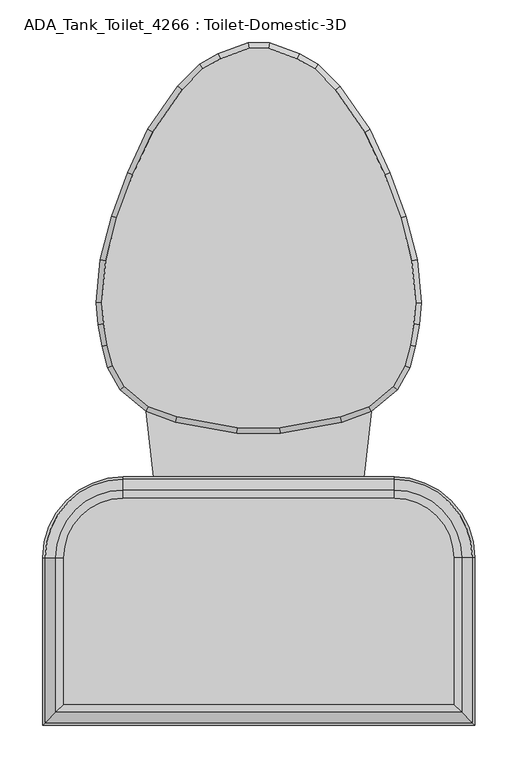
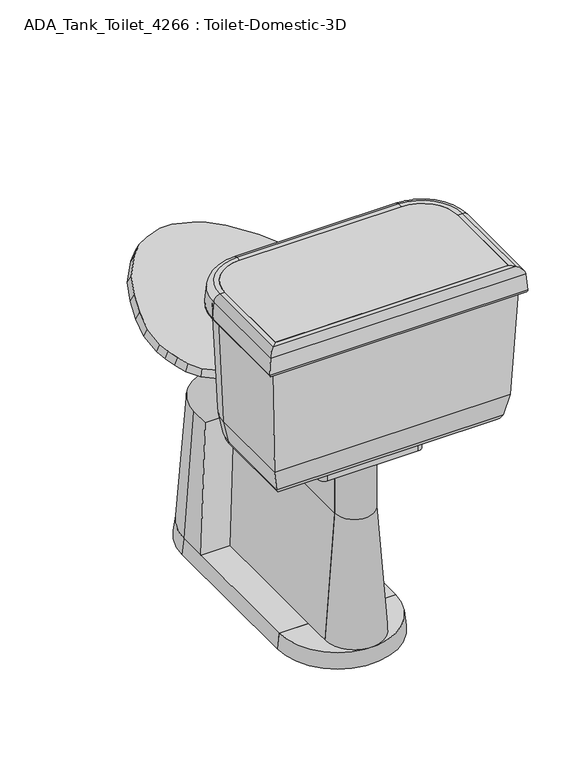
"""IFC4 building model written with IfcOpenShell, lengths in millimetres: flow terminal geometry, ADA_Tank_Toilet_4266 : Toilet-Domestic-3D."""

from ifc_helpers import new_model, si_unit, point, frame, frame_2d, origin, place, context, project, spatial, polyline, circle_curve, ellipse_curve, trimmed, segment, composite_curve, outline, extrude, faceted_brep, source, transform, mapped, element, save
from ifc_brep_helpers import plane_surface, cylinder_surface, revolved_surface, advanced_brep


def ada_tank_toilet_4266_toilet_domestic_3d_e97a8d24(model_context):
    return source(origin(), model_context, "Body", "SolidModel", [
        advanced_brep(
        [(-117.7636364, -285.75, 0.0), (-114.3, -285.75, 31.75), (-38.1, -285.75, 31.75), (-38.1, -285.75, 0.0), (117.7636364, -285.75, 0.0), (38.1, -285.75, 0.0), (38.1, -285.75, 31.75), (114.3, -285.75, 31.75)],
        [
            (0, 1),
            (1, 2),
            (2, 3),
            (3, 0),
            (4, 5),
            (5, 6),
            (6, 7),
            (7, 4),
            (4, 0, circle_curve(frame((0.0, -285.75, 0.0), z_axis=(0.0, 0.0, -1.0), x_axis=(-1.0, 0.0, 0.0)), 117.7636364)),
            (3, 5, circle_curve(frame((0.0, -285.75, 0.0), z_axis=(0.0, 0.0, 1.0), x_axis=(-1.0, 0.0, 0.0)), 38.1)),
            (2, 6, circle_curve(frame((0.0, -285.75, 31.75), z_axis=(0.0, 0.0, 1.0), x_axis=(-1.0, 0.0, 0.0)), 38.1)),
            (1, 7, circle_curve(frame((0.0, -285.75, 31.75), z_axis=(0.0, 0.0, 1.0), x_axis=(-1.0, 0.0, 0.0)), 114.3)),
        ],
        [
            plane_surface(frame((0.0, -285.75, -304.8), z_axis=(0.0, 1.0, 0.0), x_axis=(-1.0, 0.0, 0.0))),
            plane_surface(frame((0.0, -285.75, -304.8), z_axis=(0.0, 1.0, 0.0), x_axis=(1.0, 0.0, 0.0))),
            plane_surface(frame((0.0, -285.75, 0.0), z_axis=(0.0, 0.0, -1.0), x_axis=(-1.0, 0.0, 0.0))),
            revolved_surface(polyline([(-38.1, -285.75, 0.0), (-38.1, -285.75, 31.75)]), (0.0, -285.75, -304.8), (0.0, 0.0, -1.0)),
            plane_surface(frame((0.0, -285.75, 31.75), z_axis=(0.0, 0.0, 1.0), x_axis=(-1.0, 0.0, 0.0))),
            revolved_surface(polyline([(-114.3, -285.75, 31.75), (-117.7636364, -285.75, 0.0)]), (0.0, -285.75, -304.8), (0.0, 0.0, -1.0)),
        ],
        [
            (0, [[1, 2, 3, 4]]),
            (1, [[5, 6, 7, 8]]),
            (2, [[-5, 9, -4, 10]]),
            (3, [[-6, -10, -3, 11]]),
            (4, [[-7, -11, -2, 12]]),
            (5, [[-8, -12, -1, -9]]),
        ],
    ),
        advanced_brep(
        [(-38.1, -342.9, 288.9252637), (-38.1, -342.9, 31.75), (-57.15, -342.9, 31.75), (38.1, -342.9, 288.9252637), (57.15, -342.9, 31.75), (38.1, -342.9, 31.75)],
        [
            (0, 1),
            (1, 2),
            (2, 0),
            (3, 4),
            (4, 5),
            (5, 3),
            (3, 0, circle_curve(frame((0.0, -342.9, 288.9252637), z_axis=(0.0, 0.0, -1.0), x_axis=(-1.0, 0.0, 0.0)), 38.1)),
            (2, 4, circle_curve(frame((0.0, -342.9, 31.75), z_axis=(0.0, 0.0, 1.0), x_axis=(-1.0, 0.0, 0.0)), 57.15)),
            (1, 5, circle_curve(frame((0.0, -342.9, 31.75), z_axis=(0.0, 0.0, 1.0), x_axis=(-1.0, 0.0, 0.0)), 38.1)),
        ],
        [
            plane_surface(frame((0.0, -342.9, 31.75), z_axis=(0.0, 1.0, 0.0), x_axis=(-1.0, 0.0, 0.0))),
            plane_surface(frame((0.0, -342.9, 31.75), z_axis=(0.0, 1.0, 0.0), x_axis=(1.0, 0.0, 0.0))),
            revolved_surface(polyline([(-38.1, -342.9, 288.9252637), (-57.15, -342.9, 31.75)]), (0.0, -342.9, 31.75), (0.0, 0.0, -1.0)),
            plane_surface(frame((0.0, -342.9, 31.75), z_axis=(0.0, 0.0, -1.0), x_axis=(-1.0, 0.0, 0.0))),
            revolved_surface(polyline([(-38.1, -342.9, 31.75), (-38.1, -342.9, 288.9252637)]), (0.0, -342.9, 31.75), (0.0, 0.0, -1.0)),
        ],
        [
            (0, [[1, 2, 3]]),
            (1, [[4, 5, 6]]),
            (2, [[-4, 7, -3, 8]]),
            (3, [[-5, -8, -2, 9]]),
            (4, [[-6, -9, -1, -7]]),
        ],
    ),
        faceted_brep([(-157.6293435, -97.472128, 482.6), (-129.0942628, -121.4159037, 482.6), (-95.7755003, -133.5429415, 482.6), (-24.844447, -146.05, 482.6), (24.844447, -146.05, 482.6), (95.7755003, -133.5429415, 482.6), (129.0942628, -121.4159037, 482.6), (157.6293435, -97.472128, 482.6), (171.060664, -73.773864, 482.6), (177.5851102, -49.4242991, 482.6), (181.9845715, -24.4737144, 482.6), (184.125744, 0.0, 482.6), (179.7950716, 49.4998127, 482.6), (166.347, 99.688699, 482.6), (148.0469602, 149.9676451, 482.6), (124.7045808, 200.0255393, 482.6), (90.0971582, 249.9125941, 482.6), (65.691017, 274.3187354, 482.6), (44.8990862, 286.3229622, 482.6), (11.5803237, 298.45, 482.6), (-11.5803237, 298.45, 482.6), (-44.8990862, 286.3229622, 482.6), (-65.691017, 274.3187354, 482.6), (-90.0971582, 249.9125941, 482.6), (-124.7045808, 200.0255393, 482.6), (-148.0469602, 149.9676451, 482.6), (-166.347, 99.688699, 482.6), (-179.7950716, 49.4998127, 482.6), (-184.125744, 0.0, 482.6), (-181.9845715, -24.4737144, 482.6), (-177.5851102, -49.4242991, 482.6), (-171.060664, -73.773864, 482.6), (-162.5887836, -101.6, 469.7681453), (-176.9845865, -76.2, 469.7681453), (-183.790496, -50.8, 469.7681453), (-188.2862441, -25.3033453, 469.7681453), (-190.5, 0.0, 469.7681453), (-186.0724883, 50.6066907, 469.7681453), (-172.4088722, 101.6, 469.7681453), (-153.9191843, 152.4, 469.7681453), (-130.2307553, 203.2, 469.7681453), (-94.9900085, 254.0, 469.7681453), (-69.5900085, 279.4, 469.7681453), (-47.5929632, 292.1, 469.7681453), (-12.7, 304.8, 469.7681453), (12.7, 304.8, 469.7681453), (47.5929632, 292.1, 469.7681453), (69.5900085, 279.4, 469.7681453), (94.9900085, 254.0, 469.7681453), (130.2307553, 203.2, 469.7681453), (153.9191843, 152.4, 469.7681453), (172.4088722, 101.6, 469.7681453), (186.0724883, 50.6066907, 469.7681453), (190.5, 0.0, 469.7681453), (188.2862441, -25.3033453, 469.7681453), (183.790496, -50.8, 469.7681453), (176.9845865, -76.2, 469.7681453), (162.5887836, -101.6, 469.7681453), (132.3182423, -127.0, 469.7681453), (97.4252791, -139.7, 469.7681453), (25.4, -152.4, 469.7681453), (-25.4, -152.4, 469.7681453), (-97.4252791, -139.7, 469.7681453), (-132.3182423, -127.0, 469.7681453)], [[[0, 1, 2, 3, 4, 5, 6, 7, 8, 9, 10, 11, 12, 13, 14, 15, 16, 17, 18, 19, 20, 21, 22, 23, 24, 25, 26, 27, 28, 29, 30, 31]], [[32, 33, 34, 35, 36, 37, 38, 39, 40, 41, 42, 43, 44, 45, 46, 47, 48, 49, 50, 51, 52, 53, 54, 55, 56, 57, 58, 59, 60, 61, 62, 63]], [[32, 0, 31, 33]], [[33, 31, 30, 34]], [[34, 30, 29, 35]], [[35, 29, 28, 36]], [[36, 28, 27, 37]], [[37, 27, 26, 38]], [[38, 26, 25, 39]], [[39, 25, 24, 40]], [[40, 24, 23, 41]], [[41, 23, 22, 42]], [[42, 22, 21, 43]], [[43, 21, 20, 44]], [[44, 20, 19, 45]], [[45, 19, 18, 46]], [[46, 18, 17, 47]], [[47, 17, 16, 48]], [[48, 16, 15, 49]], [[49, 15, 14, 50]], [[50, 14, 13, 51]], [[51, 13, 12, 52]], [[52, 12, 11, 53]], [[53, 11, 10, 54]], [[54, 10, 9, 55]], [[55, 9, 8, 56]], [[56, 8, 7, 57]], [[57, 7, 6, 58]], [[58, 6, 5, 59]], [[59, 5, 4, 60]], [[60, 4, 3, 61]], [[61, 3, 2, 62]], [[62, 2, 1, 63]], [[63, 1, 0, 32]]]),
        extrude(outline(composite_curve([segment(polyline([(228.5868869, -469.8868869), (-228.5868869, -469.8868869), (-228.5868869, -298.45)]), True, "CONTINUOUS"), segment(trimmed(circle_curve(frame_2d((-158.75, -298.45)), 69.8368869), [point((-228.5868869, -298.45))], [point((-158.75, -228.6131131))], False, "CARTESIAN"), True, "CONTINUOUS"), segment(polyline([(-158.75, -228.6131131), (158.75, -228.6131131)]), True, "CONTINUOUS"), segment(trimmed(circle_curve(frame_2d((158.75, -298.45)), 69.8368869), [point((158.75, -228.6131131))], [point((228.5868869, -298.45))], False, "CARTESIAN"), True, "CONTINUOUS"), segment(polyline([(228.5868869, -298.45), (228.5868869, -469.8868869)]), True, "CONTINUOUS")], self_intersect=False)), frame((0.0, 0.0, 736.6), z_axis=(0.0, 0.0, 1.0), x_axis=(1.0, 0.0, 0.0)), (0.0, 0.0, 1.0), 50.8),
        extrude(outline(composite_curve([segment(polyline([(-38.1, -342.9), (38.1, -342.9)]), True, "CONTINUOUS"), segment(trimmed(circle_curve(frame_2d((0.0, -342.9)), 38.1), [point((38.1, -342.9))], [point((-38.1, -342.9))], False, "CARTESIAN"), True, "CONTINUOUS")], self_intersect=False)), frame((0.0, 0.0, 288.925), z_axis=(0.0, 0.0, 1.0), x_axis=(1.0, 0.0, 0.0)), (0.0, 0.0, 1.0), 130.175),
        advanced_brep(
        [(177.8, -419.1, 469.7681453), (177.8, -298.45, 469.7681453), (177.8, -298.45, 457.2), (177.8, -419.1, 457.2), (192.8020829, -434.1020829, 469.7681453), (192.8020829, -298.45, 469.7681453), (211.4650931, -452.7650931, 484.9978636), (211.4650931, -298.45, 484.9978636), (218.7732506, -460.0732506, 520.7), (218.7732506, -298.45, 520.7), (228.5868869, -469.8868869, 736.6), (228.5868869, -298.45, 736.6), (228.5868869, -469.8868869, 787.4), (228.5868869, -298.45, 787.4), (237.91817, -479.21817, 787.4), (237.91817, -298.45, 787.4), (250.5698426, -491.8698426, 775.8068779), (250.5698426, -298.45, 775.8068779), (253.3960274, -494.6960274, 743.503439), (253.3960274, -298.45, 743.503439), (247.070191, -488.370191, 736.6), (247.070191, -298.45, 736.6), (241.3, -482.6, 736.6), (241.3, -298.45, 736.6), (231.4863636, -472.7863636, 520.7), (231.4863636, -298.45, 520.7), (222.3416824, -463.6416824, 476.0259963), (222.3416824, -298.45, 476.0259963), (197.8071664, -439.1071664, 457.2), (197.8071664, -298.45, 457.2), (158.75, -279.4, 469.7681453), (158.75, -279.4, 457.2), (158.75, -264.3979171, 469.7681453), (158.75, -245.7349069, 484.9978636), (158.75, -238.4267494, 520.7), (158.75, -228.6131131, 736.6), (158.75, -228.6131131, 787.4), (158.75, -219.28183, 787.4), (158.75, -206.6301574, 775.8068779), (158.75, -203.8039726, 743.503439), (158.75, -210.129809, 736.6), (158.75, -215.9, 736.6), (158.75, -225.7136364, 520.7), (158.75, -234.8583176, 476.0259963), (158.75, -259.3928336, 457.2), (-158.75, -279.4, 469.7681453), (-158.75, -279.4, 457.2), (-158.75, -264.3979171, 469.7681453), (-158.75, -245.7349069, 484.9978636), (-158.75, -238.4267494, 520.7), (-158.75, -228.6131131, 736.6), (-158.75, -228.6131131, 787.4), (-158.75, -219.28183, 787.4), (-158.75, -206.6301574, 775.8068779), (-158.75, -203.8039726, 743.503439), (-158.75, -210.129809, 736.6), (-158.75, -215.9, 736.6), (-158.75, -225.7136364, 520.7), (-158.75, -234.8583176, 476.0259963), (-158.75, -259.3928336, 457.2), (-177.8, -298.45, 469.7681453), (-177.8, -298.45, 457.2), (-192.8020829, -298.45, 469.7681453), (-211.4650931, -298.45, 484.9978636), (-218.7732506, -298.45, 520.7), (-228.5868869, -298.45, 736.6), (-228.5868869, -298.45, 787.4), (-237.91817, -298.45, 787.4), (-250.5698426, -298.45, 775.8068779), (-253.3960274, -298.45, 743.503439), (-247.070191, -298.45, 736.6), (-241.3, -298.45, 736.6), (-231.4863636, -298.45, 520.7), (-222.3416824, -298.45, 476.0259963), (-197.8071664, -298.45, 457.2), (-177.8, -419.1, 469.7681453), (-177.8, -419.1, 457.2), (-192.8020829, -434.1020829, 469.7681453), (-211.4650931, -452.7650931, 484.9978636), (-218.7732506, -460.0732506, 520.7), (-228.5868869, -469.8868869, 736.6), (-228.5868869, -469.8868869, 787.4), (-237.91817, -479.21817, 787.4), (-250.5698426, -491.8698426, 775.8068779), (-253.3960274, -494.6960274, 743.503439), (-247.070191, -488.370191, 736.6), (-241.3, -482.6, 736.6), (-231.4863636, -472.7863636, 520.7), (-222.3416824, -463.6416824, 476.0259963), (-197.8071664, -439.1071664, 457.2)],
        [
            (0, 1),
            (1, 2),
            (2, 3),
            (3, 0),
            (4, 5),
            (5, 1),
            (0, 4),
            (6, 7),
            (7, 5, circle_curve(frame((192.8020829, -298.45, 488.8181453), z_axis=(0.0, 1.0, 0.0), x_axis=(1.0, 0.0, 0.0)), 19.05)),
            (4, 6, ellipse_curve(frame((192.8020829, -434.1020829, 488.8181453), z_axis=(-0.7071067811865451, -0.7071067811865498, 0.0), x_axis=(-0.7071067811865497, 0.7071067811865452, 0.0)), 26.9407684, 19.05)),
            (8, 9),
            (9, 7),
            (6, 8),
            (10, 11),
            (11, 9),
            (8, 10),
            (12, 13),
            (13, 11),
            (10, 12),
            (14, 15),
            (15, 13),
            (12, 14),
            (16, 17),
            (17, 15, circle_curve(frame((237.91817, -298.45, 774.7), z_axis=(0.0, -1.0, 0.0), x_axis=(1.0, 0.0, 0.0)), 12.7)),
            (14, 16, ellipse_curve(frame((237.91817, -479.21817, 774.7), z_axis=(0.7071067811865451, 0.7071067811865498, 0.0), x_axis=(0.7071067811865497, -0.7071067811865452, 0.0)), 17.9605122, 12.7)),
            (18, 19),
            (19, 17),
            (16, 18),
            (20, 21),
            (21, 19, circle_curve(frame((247.070191, -298.45, 742.95), z_axis=(0.0, -1.0, 0.0), x_axis=(1.0, 0.0, 0.0)), 6.35)),
            (18, 20, ellipse_curve(frame((247.070191, -488.370191, 742.95), z_axis=(0.7071067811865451, 0.7071067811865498, 0.0), x_axis=(0.7071067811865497, -0.7071067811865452, 0.0)), 8.9802561, 6.35)),
            (22, 23),
            (23, 21),
            (20, 22),
            (24, 25),
            (25, 23),
            (22, 24),
            (26, 27),
            (27, 25),
            (24, 26),
            (28, 29),
            (29, 27, circle_curve(frame((197.8071664, -298.45, 482.6), z_axis=(0.0, -1.0, 0.0), x_axis=(1.0, 0.0, 0.0)), 25.4)),
            (26, 28, ellipse_curve(frame((197.8071664, -439.1071664, 482.6), z_axis=(0.7071067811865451, 0.7071067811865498, 0.0), x_axis=(0.7071067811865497, -0.7071067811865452, 0.0)), 35.9210245, 25.4)),
            (2, 29),
            (28, 3),
            (30, 31),
            (31, 2, circle_curve(frame((158.75, -298.45, 457.2), z_axis=(0.0, 0.0, -1.0), x_axis=(1.0, 0.0, 0.0)), 19.05)),
            (1, 30, circle_curve(frame((158.75, -298.45, 469.7681453), z_axis=(0.0, 0.0, 1.0), x_axis=(1.0, 0.0, 0.0)), 19.05)),
            (32, 30),
            (5, 32, circle_curve(frame((158.75, -298.45, 469.7681453), z_axis=(0.0, 0.0, 1.0), x_axis=(1.0, 0.0, 0.0)), 34.0520829)),
            (33, 32, circle_curve(frame((158.75, -264.3979171, 488.8181453), z_axis=(-1.0, 0.0, 0.0), x_axis=(0.0, 1.0, 0.0)), 19.05)),
            (7, 33, circle_curve(frame((158.75, -298.45, 484.9978636), z_axis=(0.0, 0.0, 1.0), x_axis=(1.0, 0.0, 0.0)), 52.7150931)),
            (34, 33),
            (9, 34, circle_curve(frame((158.75, -298.45, 520.7), z_axis=(0.0, 0.0, 1.0), x_axis=(1.0, 0.0, 0.0)), 60.0232506)),
            (35, 34),
            (11, 35, circle_curve(frame((158.75, -298.45, 736.6), z_axis=(0.0, 0.0, 1.0), x_axis=(1.0, 0.0, 0.0)), 69.8368869)),
            (36, 35),
            (13, 36, circle_curve(frame((158.75, -298.45, 787.4), z_axis=(0.0, 0.0, 1.0), x_axis=(1.0, 0.0, 0.0)), 69.8368869)),
            (37, 36),
            (15, 37, circle_curve(frame((158.75, -298.45, 787.4), z_axis=(0.0, 0.0, 1.0), x_axis=(1.0, 0.0, 0.0)), 79.16817)),
            (38, 37, circle_curve(frame((158.75, -219.28183, 774.7), z_axis=(1.0, 0.0, 0.0), x_axis=(0.0, 1.0, 0.0)), 12.7)),
            (17, 38, circle_curve(frame((158.75, -298.45, 775.8068779), z_axis=(0.0, 0.0, 1.0), x_axis=(1.0, 0.0, 0.0)), 91.8198426)),
            (39, 38),
            (19, 39, circle_curve(frame((158.75, -298.45, 743.503439), z_axis=(0.0, 0.0, 1.0), x_axis=(1.0, 0.0, 0.0)), 94.6460274)),
            (40, 39, circle_curve(frame((158.75, -210.129809, 742.95), z_axis=(1.0, 0.0, 0.0), x_axis=(0.0, 1.0, 0.0)), 6.35)),
            (21, 40, circle_curve(frame((158.75, -298.45, 736.6), z_axis=(0.0, 0.0, 1.0), x_axis=(1.0, 0.0, 0.0)), 88.320191)),
            (41, 40),
            (23, 41, circle_curve(frame((158.75, -298.45, 736.6), z_axis=(0.0, 0.0, 1.0), x_axis=(1.0, 0.0, 0.0)), 82.55)),
            (42, 41),
            (25, 42, circle_curve(frame((158.75, -298.45, 520.7), z_axis=(0.0, 0.0, 1.0), x_axis=(1.0, 0.0, 0.0)), 72.7363636)),
            (43, 42),
            (27, 43, circle_curve(frame((158.75, -298.45, 476.0259963), z_axis=(0.0, 0.0, 1.0), x_axis=(1.0, 0.0, 0.0)), 63.5916824)),
            (44, 43, circle_curve(frame((158.75, -259.3928336, 482.6), z_axis=(1.0, 0.0, 0.0), x_axis=(0.0, 1.0, 0.0)), 25.4)),
            (29, 44, circle_curve(frame((158.75, -298.45, 457.2), z_axis=(0.0, 0.0, 1.0), x_axis=(1.0, 0.0, 0.0)), 39.0571664)),
            (31, 44),
            (30, 45),
            (45, 46),
            (46, 31),
            (32, 47),
            (47, 45),
            (33, 48),
            (48, 47, circle_curve(frame((-158.75, -264.3979171, 488.8181453), z_axis=(-1.0, 0.0, 0.0), x_axis=(0.0, 1.0, 0.0)), 19.05)),
            (34, 49),
            (49, 48),
            (35, 50),
            (50, 49),
            (36, 51),
            (51, 50),
            (37, 52),
            (52, 51),
            (38, 53),
            (53, 52, circle_curve(frame((-158.75, -219.28183, 774.7), z_axis=(1.0, 0.0, 0.0), x_axis=(0.0, 1.0, 0.0)), 12.7)),
            (39, 54),
            (54, 53),
            (40, 55),
            (55, 54, circle_curve(frame((-158.75, -210.129809, 742.95), z_axis=(1.0, 0.0, 0.0), x_axis=(0.0, 1.0, 0.0)), 6.35)),
            (41, 56),
            (56, 55),
            (42, 57),
            (57, 56),
            (43, 58),
            (58, 57),
            (44, 59),
            (59, 58, circle_curve(frame((-158.75, -259.3928336, 482.6), z_axis=(1.0, 0.0, 0.0), x_axis=(0.0, 1.0, 0.0)), 25.4)),
            (46, 59),
            (60, 61),
            (61, 46, circle_curve(frame((-158.75, -298.45, 457.2), z_axis=(0.0, 0.0, -1.0), x_axis=(0.0, 1.0, 0.0)), 19.05)),
            (45, 60, circle_curve(frame((-158.75, -298.45, 469.7681453), z_axis=(0.0, 0.0, 1.0), x_axis=(0.0, 1.0, 0.0)), 19.05)),
            (62, 60),
            (47, 62, circle_curve(frame((-158.75, -298.45, 469.7681453), z_axis=(0.0, 0.0, 1.0), x_axis=(0.0, 1.0, 0.0)), 34.0520829)),
            (63, 62, circle_curve(frame((-192.8020829, -298.45, 488.8181453), z_axis=(0.0, -1.0, 0.0), x_axis=(-1.0, 0.0, 0.0)), 19.05)),
            (48, 63, circle_curve(frame((-158.75, -298.45, 484.9978636), z_axis=(0.0, 0.0, 1.0), x_axis=(0.0, 1.0, 0.0)), 52.7150931)),
            (64, 63),
            (49, 64, circle_curve(frame((-158.75, -298.45, 520.7), z_axis=(0.0, 0.0, 1.0), x_axis=(0.0, 1.0, 0.0)), 60.0232506)),
            (65, 64),
            (50, 65, circle_curve(frame((-158.75, -298.45, 736.6), z_axis=(0.0, 0.0, 1.0), x_axis=(0.0, 1.0, 0.0)), 69.8368869)),
            (66, 65),
            (51, 66, circle_curve(frame((-158.75, -298.45, 787.4), z_axis=(0.0, 0.0, 1.0), x_axis=(0.0, 1.0, 0.0)), 69.8368869)),
            (67, 66),
            (52, 67, circle_curve(frame((-158.75, -298.45, 787.4), z_axis=(0.0, 0.0, 1.0), x_axis=(0.0, 1.0, 0.0)), 79.16817)),
            (68, 67, circle_curve(frame((-237.91817, -298.45, 774.7), z_axis=(0.0, 1.0, 0.0), x_axis=(-1.0, 0.0, 0.0)), 12.7)),
            (53, 68, circle_curve(frame((-158.75, -298.45, 775.8068779), z_axis=(0.0, 0.0, 1.0), x_axis=(0.0, 1.0, 0.0)), 91.8198426)),
            (69, 68),
            (54, 69, circle_curve(frame((-158.75, -298.45, 743.503439), z_axis=(0.0, 0.0, 1.0), x_axis=(0.0, 1.0, 0.0)), 94.6460274)),
            (70, 69, circle_curve(frame((-247.070191, -298.45, 742.95), z_axis=(0.0, 1.0, 0.0), x_axis=(-1.0, 0.0, 0.0)), 6.35)),
            (55, 70, circle_curve(frame((-158.75, -298.45, 736.6), z_axis=(0.0, 0.0, 1.0), x_axis=(0.0, 1.0, 0.0)), 88.320191)),
            (71, 70),
            (56, 71, circle_curve(frame((-158.75, -298.45, 736.6), z_axis=(0.0, 0.0, 1.0), x_axis=(0.0, 1.0, 0.0)), 82.55)),
            (72, 71),
            (57, 72, circle_curve(frame((-158.75, -298.45, 520.7), z_axis=(0.0, 0.0, 1.0), x_axis=(0.0, 1.0, 0.0)), 72.7363636)),
            (73, 72),
            (58, 73, circle_curve(frame((-158.75, -298.45, 476.0259963), z_axis=(0.0, 0.0, 1.0), x_axis=(0.0, 1.0, 0.0)), 63.5916824)),
            (74, 73, circle_curve(frame((-197.8071664, -298.45, 482.6), z_axis=(0.0, 1.0, 0.0), x_axis=(-1.0, 0.0, 0.0)), 25.4)),
            (59, 74, circle_curve(frame((-158.75, -298.45, 457.2), z_axis=(0.0, 0.0, 1.0), x_axis=(0.0, 1.0, 0.0)), 39.0571664)),
            (61, 74),
            (60, 75),
            (75, 76),
            (76, 61),
            (62, 77),
            (77, 75),
            (63, 78),
            (78, 77, ellipse_curve(frame((-192.8020829, -434.1020829, 488.8181453), z_axis=(0.7071067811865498, -0.7071067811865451, 0.0), x_axis=(-0.7071067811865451, -0.70710678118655, 0.0)), 26.9407684, 19.05)),
            (64, 79),
            (79, 78),
            (65, 80),
            (80, 79),
            (66, 81),
            (81, 80),
            (67, 82),
            (82, 81),
            (68, 83),
            (83, 82, ellipse_curve(frame((-237.91817, -479.21817, 774.7), z_axis=(-0.7071067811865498, 0.7071067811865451, 0.0), x_axis=(0.7071067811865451, 0.70710678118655, 0.0)), 17.9605122, 12.7)),
            (69, 84),
            (84, 83),
            (70, 85),
            (85, 84, ellipse_curve(frame((-247.070191, -488.370191, 742.95), z_axis=(-0.7071067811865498, 0.7071067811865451, 0.0), x_axis=(0.7071067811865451, 0.70710678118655, 0.0)), 8.9802561, 6.35)),
            (71, 86),
            (86, 85),
            (72, 87),
            (87, 86),
            (73, 88),
            (88, 87),
            (74, 89),
            (89, 88, ellipse_curve(frame((-197.8071664, -439.1071664, 482.6), z_axis=(-0.7071067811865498, 0.7071067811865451, 0.0), x_axis=(0.7071067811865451, 0.70710678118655, 0.0)), 35.9210245, 25.4)),
            (76, 89),
            (75, 0),
            (3, 76),
            (77, 4),
            (78, 6),
            (79, 8),
            (80, 10),
            (81, 12),
            (82, 14),
            (83, 16),
            (84, 18),
            (85, 20),
            (86, 22),
            (87, 24),
            (88, 26),
            (89, 28),
        ],
        [
            plane_surface(frame((177.8, -419.1, 457.2), z_axis=(-1.0, 0.0, 0.0), x_axis=(0.0, 1.0, 0.0))),
            plane_surface(frame((177.8, -419.1, 469.7681453), z_axis=(0.0, 0.0, 1.0), x_axis=(0.0, 1.0, 0.0))),
            revolved_surface(polyline([(211.8520829, -298.45, 488.8181453), (211.8520829, -453.1520829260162, 488.8181453)]), (192.8020829, -419.1, 488.8181453), (0.0, 1.0, 0.0)),
            plane_surface(frame((211.4650931, -452.7650931, 484.9978636), z_axis=(-0.9796855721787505, 0.0, 0.2005397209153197), x_axis=(0.0, 1.0, 0.0))),
            plane_surface(frame((218.7732506, -460.0732506, 520.7), z_axis=(-0.9989685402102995, 0.0, 0.045407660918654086), x_axis=(0.0, 1.0, 0.0))),
            plane_surface(frame((228.5868869, -469.8868869, 736.6), z_axis=(-1.0, 0.0, 0.0), x_axis=(0.0, 1.0, 0.0))),
            plane_surface(frame((228.5868869, -469.8868869, 787.4), z_axis=(0.0, 0.0, 1.0), x_axis=(0.0, 1.0, 0.0))),
            cylinder_surface(frame((237.91817, -419.1, 774.7), z_axis=(0.0, -1.0, 0.0), x_axis=(1.0, 0.0, 0.0)), 12.7),
            plane_surface(frame((250.5698426, -491.8698426, 775.8068779), z_axis=(0.9961946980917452, 0.0, 0.08715574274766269), x_axis=(0.0, 1.0, 0.0))),
            cylinder_surface(frame((247.070191, -419.1, 742.95), z_axis=(0.0, -1.0, 0.0), x_axis=(1.0, 0.0, 0.0)), 6.35),
            plane_surface(frame((247.070191, -488.370191, 736.6), z_axis=(0.0, 0.0, -1.0), x_axis=(0.0, 1.0, 0.0))),
            plane_surface(frame((241.3, -482.6, 736.6), z_axis=(0.9989685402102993, 0.0, -0.04540766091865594), x_axis=(0.0, 1.0, 0.0))),
            plane_surface(frame((231.4863636, -472.7863636, 520.7), z_axis=(0.9796855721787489, 0.0, -0.20053972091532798), x_axis=(0.0, 1.0, 0.0))),
            cylinder_surface(frame((197.8071664, -419.1, 482.6), z_axis=(0.0, -1.0, 0.0), x_axis=(1.0, 0.0, 0.0)), 25.4),
            plane_surface(frame((197.8071664, -439.1071664, 457.2), z_axis=(0.0, 0.0, -1.0), x_axis=(0.0, 1.0, 0.0))),
            revolved_surface(polyline([(177.8, -298.45, 457.2), (177.8, -298.45, 469.7681453)]), (158.75, -298.45, 0.0), (0.0, 0.0, -1.0)),
            plane_surface(frame((158.75, -298.45, 469.7681453), z_axis=(0.0, 0.0, 1.0), x_axis=(1.0, 0.0, 0.0))),
            revolved_surface(trimmed(ellipse_curve(frame((192.8020829, -298.45, 488.8181453), z_axis=(0.0, -1.0, 0.0), x_axis=(1.0, 0.0, 0.0)), 19.05, 19.05), [point((192.8020829, -298.45, 469.7681453))], [point((211.4650931, -298.45, 484.9978636))], True, "CARTESIAN"), (158.75, -298.45, 0.0), (0.0, 0.0, -1.0)),
            revolved_surface(polyline([(211.4650931, -298.45, 484.9978636), (218.7732506, -298.45, 520.7)]), (158.75, -298.45, 0.0), (0.0, 0.0, -1.0)),
            revolved_surface(polyline([(218.7732506, -298.45, 520.7), (228.5868869, -298.45, 736.6)]), (158.75, -298.45, 0.0), (0.0, 0.0, -1.0)),
            revolved_surface(polyline([(228.5868869, -298.45, 736.6), (228.5868869, -298.45, 787.4)]), (158.75, -298.45, 0.0), (0.0, 0.0, -1.0)),
            plane_surface(frame((158.75, -298.45, 787.4), z_axis=(0.0, 0.0, 1.0), x_axis=(1.0, 0.0, 0.0))),
            revolved_surface(trimmed(ellipse_curve(frame((237.91817, -298.45, 774.7), z_axis=(0.0, 1.0, 0.0), x_axis=(1.0, 0.0, 0.0)), 12.7, 12.7), [point((237.91817, -298.45, 787.4))], [point((250.5698426, -298.45, 775.8068779))], True, "CARTESIAN"), (158.75, -298.45, 0.0), (0.0, 0.0, -1.0)),
            revolved_surface(polyline([(250.5698426, -298.45, 775.8068779), (253.3960274, -298.45, 743.503439)]), (158.75, -298.45, 0.0), (0.0, 0.0, -1.0)),
            revolved_surface(trimmed(ellipse_curve(frame((247.070191, -298.45, 742.95), z_axis=(0.0, 1.0, 0.0), x_axis=(1.0, 0.0, 0.0)), 6.35, 6.35), [point((253.3960274, -298.45, 743.503439))], [point((247.070191, -298.45, 736.6))], True, "CARTESIAN"), (158.75, -298.45, 0.0), (0.0, 0.0, -1.0)),
            plane_surface(frame((158.75, -298.45, 736.6), z_axis=(0.0, 0.0, -1.0), x_axis=(1.0, 0.0, 0.0))),
            revolved_surface(polyline([(241.3, -298.45, 736.6), (231.4863636, -298.45, 520.7)]), (158.75, -298.45, 0.0), (0.0, 0.0, -1.0)),
            revolved_surface(polyline([(231.4863636, -298.45, 520.7), (222.3416824, -298.45, 476.0259963)]), (158.75, -298.45, 0.0), (0.0, 0.0, -1.0)),
            revolved_surface(trimmed(ellipse_curve(frame((197.8071664, -298.45, 482.6), z_axis=(0.0, 1.0, 0.0), x_axis=(1.0, 0.0, 0.0)), 25.4, 25.4), [point((222.3416824, -298.45, 476.0259963))], [point((197.8071664, -298.45, 457.2))], True, "CARTESIAN"), (158.75, -298.45, 0.0), (0.0, 0.0, -1.0)),
            plane_surface(frame((158.75, -298.45, 457.2), z_axis=(0.0, 0.0, -1.0), x_axis=(1.0, 0.0, 0.0))),
            plane_surface(frame((158.75, -279.4, 457.2), z_axis=(0.0, -1.0, 0.0), x_axis=(-1.0, 0.0, 0.0))),
            plane_surface(frame((158.75, -279.4, 469.7681453), z_axis=(0.0, 0.0, 1.0), x_axis=(-1.0, 0.0, 0.0))),
            revolved_surface(polyline([(-158.75, -245.34791709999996, 488.8181453), (158.75, -245.34791709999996, 488.8181453)]), (158.75, -264.3979171, 488.8181453), (-1.0, 0.0, 0.0)),
            plane_surface(frame((158.75, -245.7349069, 484.9978636), z_axis=(0.0, -0.9796855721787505, 0.2005397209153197), x_axis=(-1.0, 0.0, 0.0))),
            plane_surface(frame((158.75, -238.4267494, 520.7), z_axis=(0.0, -0.9989685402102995, 0.045407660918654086), x_axis=(-1.0, 0.0, 0.0))),
            plane_surface(frame((158.75, -228.6131131, 736.6), z_axis=(0.0, -1.0, 0.0), x_axis=(-1.0, 0.0, 0.0))),
            plane_surface(frame((158.75, -228.6131131, 787.4), z_axis=(0.0, 0.0, 1.0), x_axis=(-1.0, 0.0, 0.0))),
            cylinder_surface(frame((158.75, -219.28183, 774.7), z_axis=(1.0, 0.0, 0.0), x_axis=(0.0, 1.0, 0.0)), 12.7),
            plane_surface(frame((158.75, -206.6301574, 775.8068779), z_axis=(0.0, 0.9961946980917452, 0.08715574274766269), x_axis=(-1.0, 0.0, 0.0))),
            cylinder_surface(frame((158.75, -210.129809, 742.95), z_axis=(1.0, 0.0, 0.0), x_axis=(0.0, 1.0, 0.0)), 6.35),
            plane_surface(frame((158.75, -210.129809, 736.6), z_axis=(0.0, 0.0, -1.0), x_axis=(-1.0, 0.0, 0.0))),
            plane_surface(frame((158.75, -215.9, 736.6), z_axis=(0.0, 0.9989685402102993, -0.04540766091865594), x_axis=(-1.0, 0.0, 0.0))),
            plane_surface(frame((158.75, -225.7136364, 520.7), z_axis=(0.0, 0.9796855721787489, -0.20053972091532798), x_axis=(-1.0, 0.0, 0.0))),
            cylinder_surface(frame((158.75, -259.3928336, 482.6), z_axis=(1.0, 0.0, 0.0), x_axis=(0.0, 1.0, 0.0)), 25.4),
            plane_surface(frame((158.75, -259.3928336, 457.2), z_axis=(0.0, 0.0, -1.0), x_axis=(-1.0, 0.0, 0.0))),
            revolved_surface(polyline([(-158.75, -279.4, 457.2), (-158.75, -279.4, 469.7681453)]), (-158.75, -298.45, 0.0), (0.0, 0.0, -1.0)),
            plane_surface(frame((-158.75, -298.45, 469.7681453), z_axis=(0.0, 0.0, 1.0), x_axis=(0.0, 1.0, 0.0))),
            revolved_surface(trimmed(ellipse_curve(frame((-158.75, -264.3979171, 488.8181453), z_axis=(1.0, 0.0, 0.0), x_axis=(0.0, 1.0, 0.0)), 19.05, 19.05), [point((-158.75, -264.3979171, 469.7681453))], [point((-158.75, -245.7349069, 484.9978636))], True, "CARTESIAN"), (-158.75, -298.45, 0.0), (0.0, 0.0, -1.0)),
            revolved_surface(polyline([(-158.75, -245.7349069, 484.9978636), (-158.75, -238.4267494, 520.7)]), (-158.75, -298.45, 0.0), (0.0, 0.0, -1.0)),
            revolved_surface(polyline([(-158.75, -238.4267494, 520.7), (-158.75, -228.6131131, 736.6)]), (-158.75, -298.45, 0.0), (0.0, 0.0, -1.0)),
            revolved_surface(polyline([(-158.75, -228.6131131, 736.6), (-158.75, -228.6131131, 787.4)]), (-158.75, -298.45, 0.0), (0.0, 0.0, -1.0)),
            plane_surface(frame((-158.75, -298.45, 787.4), z_axis=(0.0, 0.0, 1.0), x_axis=(0.0, 1.0, 0.0))),
            revolved_surface(trimmed(ellipse_curve(frame((-158.75, -219.28183, 774.7), z_axis=(-1.0, 0.0, 0.0), x_axis=(0.0, 1.0, 0.0)), 12.7, 12.7), [point((-158.75, -219.28183, 787.4))], [point((-158.75, -206.6301574, 775.8068779))], True, "CARTESIAN"), (-158.75, -298.45, 0.0), (0.0, 0.0, -1.0)),
            revolved_surface(polyline([(-158.75, -206.6301574, 775.8068779), (-158.75, -203.8039726, 743.503439)]), (-158.75, -298.45, 0.0), (0.0, 0.0, -1.0)),
            revolved_surface(trimmed(ellipse_curve(frame((-158.75, -210.129809, 742.95), z_axis=(-1.0, 0.0, 0.0), x_axis=(0.0, 1.0, 0.0)), 6.35, 6.35), [point((-158.75, -203.8039726, 743.503439))], [point((-158.75, -210.129809, 736.6))], True, "CARTESIAN"), (-158.75, -298.45, 0.0), (0.0, 0.0, -1.0)),
            plane_surface(frame((-158.75, -298.45, 736.6), z_axis=(0.0, 0.0, -1.0), x_axis=(0.0, 1.0, 0.0))),
            revolved_surface(polyline([(-158.75, -215.9, 736.6), (-158.75, -225.7136364, 520.7)]), (-158.75, -298.45, 0.0), (0.0, 0.0, -1.0)),
            revolved_surface(polyline([(-158.75, -225.7136364, 520.7), (-158.75, -234.8583176, 476.0259963)]), (-158.75, -298.45, 0.0), (0.0, 0.0, -1.0)),
            revolved_surface(trimmed(ellipse_curve(frame((-158.75, -259.3928336, 482.6), z_axis=(-1.0, 0.0, 0.0), x_axis=(0.0, 1.0, 0.0)), 25.4, 25.4), [point((-158.75, -234.8583176, 476.0259963))], [point((-158.75, -259.3928336, 457.2))], True, "CARTESIAN"), (-158.75, -298.45, 0.0), (0.0, 0.0, -1.0)),
            plane_surface(frame((-158.75, -298.45, 457.2), z_axis=(0.0, 0.0, -1.0), x_axis=(0.0, 1.0, 0.0))),
            plane_surface(frame((-177.8, -298.45, 457.2), z_axis=(1.0, 0.0, 0.0), x_axis=(0.0, -1.0, 0.0))),
            plane_surface(frame((-177.8, -298.45, 469.7681453), z_axis=(0.0, 0.0, 1.0), x_axis=(0.0, -1.0, 0.0))),
            revolved_surface(polyline([(-211.8520829, -453.15208292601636, 488.8181453), (-211.8520829, -298.45, 488.8181453)]), (-192.8020829, -298.45, 488.8181453), (0.0, -1.0, 0.0)),
            plane_surface(frame((-211.4650931, -298.45, 484.9978636), z_axis=(0.9796855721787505, 0.0, 0.2005397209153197), x_axis=(0.0, -1.0, 0.0))),
            plane_surface(frame((-218.7732506, -298.45, 520.7), z_axis=(0.9989685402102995, 0.0, 0.045407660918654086), x_axis=(0.0, -1.0, 0.0))),
            plane_surface(frame((-228.5868869, -298.45, 736.6), z_axis=(1.0, 0.0, 0.0), x_axis=(0.0, -1.0, 0.0))),
            plane_surface(frame((-228.5868869, -298.45, 787.4), z_axis=(0.0, 0.0, 1.0), x_axis=(0.0, -1.0, 0.0))),
            cylinder_surface(frame((-237.91817, -298.45, 774.7), z_axis=(0.0, 1.0, 0.0), x_axis=(-1.0, 0.0, 0.0)), 12.7),
            plane_surface(frame((-250.5698426, -298.45, 775.8068779), z_axis=(-0.9961946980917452, 0.0, 0.08715574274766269), x_axis=(0.0, -1.0, 0.0))),
            cylinder_surface(frame((-247.070191, -298.45, 742.95), z_axis=(0.0, 1.0, 0.0), x_axis=(-1.0, 0.0, 0.0)), 6.35),
            plane_surface(frame((-247.070191, -298.45, 736.6), z_axis=(0.0, 0.0, -1.0), x_axis=(0.0, -1.0, 0.0))),
            plane_surface(frame((-241.3, -298.45, 736.6), z_axis=(-0.9989685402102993, 0.0, -0.04540766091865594), x_axis=(0.0, -1.0, 0.0))),
            plane_surface(frame((-231.4863636, -298.45, 520.7), z_axis=(-0.9796855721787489, 0.0, -0.20053972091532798), x_axis=(0.0, -1.0, 0.0))),
            cylinder_surface(frame((-197.8071664, -298.45, 482.6), z_axis=(0.0, 1.0, 0.0), x_axis=(-1.0, 0.0, 0.0)), 25.4),
            plane_surface(frame((-197.8071664, -298.45, 457.2), z_axis=(0.0, 0.0, -1.0), x_axis=(0.0, -1.0, 0.0))),
            plane_surface(frame((-177.8, -419.1, 457.2), z_axis=(0.0, 1.0, 0.0), x_axis=(1.0, 0.0, 0.0))),
            plane_surface(frame((-177.8, -419.1, 469.7681453), z_axis=(0.0, 0.0, 1.0), x_axis=(1.0, 0.0, 0.0))),
            revolved_surface(polyline([(211.85208292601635, -453.15208290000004, 488.8181453), (-211.85208292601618, -453.15208290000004, 488.8181453)]), (-177.8, -434.1020829, 488.8181453), (1.0, 0.0, 0.0)),
            plane_surface(frame((-211.4650931, -452.7650931, 484.9978636), z_axis=(0.0, 0.9796855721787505, 0.2005397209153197), x_axis=(1.0, 0.0, 0.0))),
            plane_surface(frame((-218.7732506, -460.0732506, 520.7), z_axis=(0.0, 0.9989685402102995, 0.045407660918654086), x_axis=(1.0, 0.0, 0.0))),
            plane_surface(frame((-228.5868869, -469.8868869, 736.6), z_axis=(0.0, 1.0, 0.0), x_axis=(1.0, 0.0, 0.0))),
            plane_surface(frame((-228.5868869, -469.8868869, 787.4), z_axis=(0.0, 0.0, 1.0), x_axis=(1.0, 0.0, 0.0))),
            cylinder_surface(frame((-177.8, -479.21817, 774.7), z_axis=(-1.0, 0.0, 0.0), x_axis=(0.0, -1.0, 0.0)), 12.7),
            plane_surface(frame((-250.5698426, -491.8698426, 775.8068779), z_axis=(0.0, -0.9961946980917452, 0.08715574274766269), x_axis=(1.0, 0.0, 0.0))),
            cylinder_surface(frame((-177.8, -488.370191, 742.95), z_axis=(-1.0, 0.0, 0.0), x_axis=(0.0, -1.0, 0.0)), 6.35),
            plane_surface(frame((-247.070191, -488.370191, 736.6), z_axis=(0.0, 0.0, -1.0), x_axis=(1.0, 0.0, 0.0))),
            plane_surface(frame((-241.3, -482.6, 736.6), z_axis=(0.0, -0.9989685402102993, -0.04540766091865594), x_axis=(1.0, 0.0, 0.0))),
            plane_surface(frame((-231.4863636, -472.7863636, 520.7), z_axis=(0.0, -0.9796855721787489, -0.20053972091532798), x_axis=(1.0, 0.0, 0.0))),
            cylinder_surface(frame((-177.8, -439.1071664, 482.6), z_axis=(-1.0, 0.0, 0.0), x_axis=(0.0, -1.0, 0.0)), 25.4),
            plane_surface(frame((-197.8071664, -439.1071664, 457.2), z_axis=(0.0, 0.0, -1.0), x_axis=(1.0, 0.0, 0.0))),
        ],
        [
            (0, [[1, 2, 3, 4]]),
            (1, [[5, 6, -1, 7]]),
            (2, [[8, 9, -5, 10]]),
            (3, [[11, 12, -8, 13]]),
            (4, [[14, 15, -11, 16]]),
            (5, [[17, 18, -14, 19]]),
            (6, [[20, 21, -17, 22]]),
            (7, [[23, 24, -20, 25]]),
            (8, [[26, 27, -23, 28]]),
            (9, [[29, 30, -26, 31]]),
            (10, [[32, 33, -29, 34]]),
            (11, [[35, 36, -32, 37]]),
            (12, [[38, 39, -35, 40]]),
            (13, [[41, 42, -38, 43]]),
            (14, [[-3, 44, -41, 45]]),
            (15, [[46, 47, -2, 48]]),
            (16, [[49, -48, -6, 50]]),
            (17, [[51, -50, -9, 52]]),
            (18, [[53, -52, -12, 54]]),
            (19, [[55, -54, -15, 56]]),
            (20, [[57, -56, -18, 58]]),
            (21, [[59, -58, -21, 60]]),
            (22, [[61, -60, -24, 62]]),
            (23, [[63, -62, -27, 64]]),
            (24, [[65, -64, -30, 66]]),
            (25, [[67, -66, -33, 68]]),
            (26, [[69, -68, -36, 70]]),
            (27, [[71, -70, -39, 72]]),
            (28, [[73, -72, -42, 74]]),
            (29, [[75, -74, -44, -47]]),
            (30, [[76, 77, 78, -46]]),
            (31, [[79, 80, -76, -49]]),
            (32, [[81, 82, -79, -51]]),
            (33, [[83, 84, -81, -53]]),
            (34, [[85, 86, -83, -55]]),
            (35, [[87, 88, -85, -57]]),
            (36, [[89, 90, -87, -59]]),
            (37, [[91, 92, -89, -61]]),
            (38, [[93, 94, -91, -63]]),
            (39, [[95, 96, -93, -65]]),
            (40, [[97, 98, -95, -67]]),
            (41, [[99, 100, -97, -69]]),
            (42, [[101, 102, -99, -71]]),
            (43, [[103, 104, -101, -73]]),
            (44, [[-78, 105, -103, -75]]),
            (45, [[106, 107, -77, 108]]),
            (46, [[109, -108, -80, 110]]),
            (47, [[111, -110, -82, 112]]),
            (48, [[113, -112, -84, 114]]),
            (49, [[115, -114, -86, 116]]),
            (50, [[117, -116, -88, 118]]),
            (51, [[119, -118, -90, 120]]),
            (52, [[121, -120, -92, 122]]),
            (53, [[123, -122, -94, 124]]),
            (54, [[125, -124, -96, 126]]),
            (55, [[127, -126, -98, 128]]),
            (56, [[129, -128, -100, 130]]),
            (57, [[131, -130, -102, 132]]),
            (58, [[133, -132, -104, 134]]),
            (59, [[135, -134, -105, -107]]),
            (60, [[136, 137, 138, -106]]),
            (61, [[139, 140, -136, -109]]),
            (62, [[141, 142, -139, -111]]),
            (63, [[143, 144, -141, -113]]),
            (64, [[145, 146, -143, -115]]),
            (65, [[147, 148, -145, -117]]),
            (66, [[149, 150, -147, -119]]),
            (67, [[151, 152, -149, -121]]),
            (68, [[153, 154, -151, -123]]),
            (69, [[155, 156, -153, -125]]),
            (70, [[157, 158, -155, -127]]),
            (71, [[159, 160, -157, -129]]),
            (72, [[161, 162, -159, -131]]),
            (73, [[163, 164, -161, -133]]),
            (74, [[-138, 165, -163, -135]]),
            (75, [[166, -4, 167, -137]]),
            (76, [[168, -7, -166, -140]]),
            (77, [[169, -10, -168, -142]]),
            (78, [[170, -13, -169, -144]]),
            (79, [[171, -16, -170, -146]]),
            (80, [[172, -19, -171, -148]]),
            (81, [[173, -22, -172, -150]]),
            (82, [[174, -25, -173, -152]]),
            (83, [[175, -28, -174, -154]]),
            (84, [[176, -31, -175, -156]]),
            (85, [[177, -34, -176, -158]]),
            (86, [[178, -37, -177, -160]]),
            (87, [[179, -40, -178, -162]]),
            (88, [[180, -43, -179, -164]]),
            (89, [[-167, -45, -180, -165]]),
        ],
    ),
        extrude(outline(composite_curve([segment(polyline([(-25.4, -152.4), (0.0, -152.4), (25.4, -152.4), (97.4252791, -139.7), (132.3182423, -127.0), (101.4824733, -395.1508638)]), True, "CONTINUOUS"), segment(trimmed(circle_curve(frame_2d((88.8656197, -393.7)), 12.7), [point((101.4824733, -395.1508638))], [point((88.8656197, -406.4))], False, "CARTESIAN"), True, "CONTINUOUS"), segment(polyline([(88.8656197, -406.4), (-88.8656197, -406.4)]), True, "CONTINUOUS"), segment(trimmed(circle_curve(frame_2d((-88.8656197, -393.7)), 12.7), [point((-88.8656197, -406.4))], [point((-101.4824733, -395.1508638))], False, "CARTESIAN"), True, "CONTINUOUS"), segment(polyline([(-101.4824733, -395.1508638), (-132.3182423, -127.0), (-97.4252791, -139.7), (-25.4, -152.4)]), True, "CONTINUOUS")], self_intersect=False)), frame((0.0, 0.0, 412.75), z_axis=(0.0, 0.0, 1.0), x_axis=(1.0, 0.0, 0.0)), (0.0, 0.0, 1.0), 31.75),
        extrude(outline(polyline([(-139.7, 347.0747209), (-127.0, 312.1817577), (-107.4852632, 288.925), (-342.9, 288.925), (-342.9, 419.1), (-152.4, 419.1), (-139.7, 347.0747209)])), frame((-38.1, 0.0, 0.0), z_axis=(1.0, 0.0, 0.0), x_axis=(0.0, 1.0, 0.0)), (0.0, 0.0, 1.0), 76.2),
        advanced_brep(
        [(-117.7636364, -285.75, 0.0), (-38.1, -285.75, 0.0), (-38.1, -285.75, 31.75), (-114.3, -285.75, 31.75), (-114.3, 38.0999951, 31.75), (-117.7636364, 38.0999951, 0.0), (-38.1, 38.0999951, 31.75), (-38.1, 38.0999951, 0.0), (114.2999707, 38.0999951, 31.75), (117.7636071, 38.0999951, 0.0), (38.0999707, 38.0999951, 31.75), (38.0999707, 38.0999951, 0.0), (117.7636071, -285.6681634, 0.0), (114.2999707, -285.6681634, 31.75), (38.0999707, -285.6681634, 31.75), (38.0999707, -285.6681634, 0.0)],
        [
            (0, 1),
            (1, 2),
            (2, 3),
            (3, 0),
            (3, 4),
            (4, 5),
            (5, 0),
            (2, 6),
            (6, 4),
            (1, 7),
            (7, 6),
            (5, 7),
            (8, 9),
            (9, 5, circle_curve(frame((-1.46e-05, 38.0999951, 0.0), z_axis=(0.0, 0.0, 1.0), x_axis=(-1.0, 0.0, 0.0)), 117.7636217)),
            (4, 8, circle_curve(frame((-1.46e-05, 38.0999951, 31.75), z_axis=(0.0, 0.0, -1.0), x_axis=(-1.0, 0.0, 0.0)), 114.2999854)),
            (10, 8),
            (6, 10, circle_curve(frame((-1.46e-05, 38.0999951, 31.75), z_axis=(0.0, 0.0, -1.0), x_axis=(-1.0, 0.0, 0.0)), 38.0999854)),
            (11, 10),
            (7, 11, circle_curve(frame((-1.46e-05, 38.0999951, 0.0), z_axis=(0.0, 0.0, -1.0), x_axis=(-1.0, 0.0, 0.0)), 38.0999854)),
            (9, 11),
            (12, 13),
            (13, 14),
            (14, 15),
            (15, 12),
            (8, 13),
            (12, 9),
            (10, 14),
            (11, 15),
        ],
        [
            plane_surface(frame((-196.85, -285.75, 0.0), z_axis=(0.0, -1.0, 0.0), x_axis=(0.0, 0.0, -1.0))),
            plane_surface(frame((-117.7636364, -285.75, 0.0), z_axis=(-0.9941021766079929, 0.0, 0.10844751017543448), x_axis=(0.0, 1.0, 0.0))),
            plane_surface(frame((-114.3, -285.75, 31.75), z_axis=(0.0, 0.0, 1.0), x_axis=(0.0, 1.0, 0.0))),
            plane_surface(frame((-38.1, -285.75, 31.75), z_axis=(1.0, 0.0, 0.0), x_axis=(0.0, 1.0, 0.0))),
            plane_surface(frame((-38.1, -285.75, 0.0), z_axis=(0.0, 0.0, -1.0), x_axis=(0.0, 1.0, 0.0))),
            revolved_surface(polyline([(-117.7636364, 38.0999951, 0.0), (-114.3, 38.0999951, 31.75)]), (-1.46e-05, 38.0999951, 0.0), (0.0, 0.0, 1.0)),
            plane_surface(frame((-1.46e-05, 38.0999951, 31.75), z_axis=(0.0, 0.0, 1.0), x_axis=(-1.0, 0.0, 0.0))),
            revolved_surface(polyline([(-38.1, 38.0999951, 31.75), (-38.1, 38.0999951, 0.0)]), (-1.46e-05, 38.0999951, 0.0), (0.0, 0.0, 1.0)),
            plane_surface(frame((-1.46e-05, 38.0999951, 0.0), z_axis=(0.0, 0.0, -1.0), x_axis=(-1.0, 0.0, 0.0))),
            plane_surface(frame((31.7499707, -285.6681634, 0.0), z_axis=(0.0, -1.0, 0.0), x_axis=(0.0, 0.0, 1.0))),
            plane_surface(frame((117.7636071, 38.0999951, 0.0), z_axis=(0.9941021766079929, 0.0, 0.10844751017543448), x_axis=(0.0, -1.0, 0.0))),
            plane_surface(frame((114.2999707, 38.0999951, 31.75), z_axis=(0.0, 0.0, 1.0), x_axis=(0.0, -1.0, 0.0))),
            plane_surface(frame((38.0999707, 38.0999951, 31.75), z_axis=(-1.0, 0.0, 0.0), x_axis=(0.0, -1.0, 0.0))),
            plane_surface(frame((38.0999707, 38.0999951, 0.0), z_axis=(0.0, 0.0, -1.0), x_axis=(0.0, -1.0, 0.0))),
        ],
        [
            (0, [[1, 2, 3, 4]]),
            (1, [[5, 6, 7, -4]]),
            (2, [[8, 9, -5, -3]]),
            (3, [[10, 11, -8, -2]]),
            (4, [[-7, 12, -10, -1]]),
            (5, [[13, 14, -6, 15]]),
            (6, [[16, -15, -9, 17]]),
            (7, [[18, -17, -11, 19]]),
            (8, [[20, -19, -12, -14]]),
            (9, [[21, 22, 23, 24]]),
            (10, [[25, -21, 26, -13]]),
            (11, [[27, -22, -25, -16]]),
            (12, [[28, -23, -27, -18]]),
            (13, [[-26, -24, -28, -20]]),
        ],
    ),
        advanced_brep(
        [(-57.1499805, -342.9, 31.75), (-38.1, -342.9, 31.75), (-38.1, -342.9, 288.925), (-38.1, 0.0, 288.925), (-57.1499805, -19.0499805, 31.75), (-38.1, 0.0, 31.75), (-95.25, 0.0, 288.925), (-114.2999805, -19.0499805, 31.75), (-95.25, 0.0, 31.75), (-95.25, 38.1, 288.925), (-114.2999805, 38.1, 31.75), (-95.25, 38.1, 31.75), (95.25, 38.1, 288.925), (114.2999805, 38.1, 31.75), (95.25, 38.1, 31.75), (95.25, 0.0, 288.925), (114.2999805, -19.0499805, 31.75), (95.25, 0.0, 31.75), (38.1, 0.0, 288.925), (57.1499805, -19.0499805, 31.75), (38.1, 0.0, 31.75), (57.1499805, -342.9, 31.75), (38.1, -342.9, 288.925), (38.1, -342.9, 31.75)],
        [
            (0, 1),
            (1, 2),
            (2, 0),
            (2, 3),
            (3, 4),
            (4, 0),
            (1, 5),
            (5, 3),
            (4, 5),
            (3, 6),
            (6, 7),
            (7, 4),
            (5, 8),
            (8, 6),
            (7, 8),
            (6, 9),
            (9, 10),
            (10, 7),
            (8, 11),
            (11, 9),
            (10, 11),
            (12, 13),
            (13, 10, circle_curve(frame((0.0, 38.1, 31.75), z_axis=(0.0, 0.0, 1.0), x_axis=(-1.0, 0.0, 0.0)), 114.2999805)),
            (9, 12, circle_curve(frame((0.0, 38.1, 288.925), z_axis=(0.0, 0.0, -1.0), x_axis=(-1.0, 0.0, 0.0)), 95.25)),
            (14, 12),
            (11, 14, circle_curve(frame((0.0, 38.1, 31.75), z_axis=(0.0, 0.0, -1.0), x_axis=(-1.0, 0.0, 0.0)), 95.25)),
            (13, 14),
            (12, 15),
            (15, 16),
            (16, 13),
            (14, 17),
            (17, 15),
            (16, 17),
            (15, 18),
            (18, 19),
            (19, 16),
            (17, 20),
            (20, 18),
            (19, 20),
            (21, 22),
            (22, 23),
            (23, 21),
            (18, 22),
            (21, 19),
            (20, 23),
        ],
        [
            plane_surface(frame((-327.025, -342.9, 0.0), z_axis=(0.0, -1.0, 0.0), x_axis=(0.0, 0.0, -1.0))),
            plane_surface(frame((-57.1499805, -342.9, 31.75), z_axis=(-0.9972677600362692, 0.0, 0.07387161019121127), x_axis=(0.0, 1.0, 0.0))),
            plane_surface(frame((-38.1, -342.9, 288.925), z_axis=(1.0, 0.0, 0.0), x_axis=(0.0, 1.0, 0.0))),
            plane_surface(frame((-38.1, -342.9, 31.75), z_axis=(0.0, 0.0, -1.0), x_axis=(0.0, 1.0, 0.0))),
            plane_surface(frame((-57.1499805, -19.0499805, 31.75), z_axis=(0.0, -0.9972677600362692, 0.07387161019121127), x_axis=(-1.0, 0.0, 0.0))),
            plane_surface(frame((-38.1, 0.0, 288.925), z_axis=(0.0, 1.0, 0.0), x_axis=(-1.0, 0.0, 0.0))),
            plane_surface(frame((-38.1, 0.0, 31.75), z_axis=(0.0, 0.0, -1.0), x_axis=(-1.0, 0.0, 0.0))),
            plane_surface(frame((-114.2999805, -19.0499805, 31.75), z_axis=(-0.9972677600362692, 0.0, 0.07387161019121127), x_axis=(0.0, 1.0, 0.0))),
            plane_surface(frame((-95.25, 0.0, 288.925), z_axis=(1.0, 0.0, 0.0), x_axis=(0.0, 1.0, 0.0))),
            plane_surface(frame((-95.25, 0.0, 31.75), z_axis=(0.0, 0.0, -1.0), x_axis=(0.0, 1.0, 0.0))),
            revolved_surface(polyline([(-114.2999805, 38.1, 31.75), (-95.25, 38.1, 288.925)]), (0.0, 38.1, 0.0), (0.0, 0.0, 1.0)),
            revolved_surface(polyline([(-95.25, 38.1, 288.925), (-95.25, 38.1, 31.75)]), (0.0, 38.1, 0.0), (0.0, 0.0, 1.0)),
            plane_surface(frame((0.0, 38.1, 31.75), z_axis=(0.0, 0.0, -1.0), x_axis=(-1.0, 0.0, 0.0))),
            plane_surface(frame((114.2999805, 38.1, 31.75), z_axis=(0.9972677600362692, 0.0, 0.07387161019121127), x_axis=(0.0, -1.0, 0.0))),
            plane_surface(frame((95.25, 38.1, 288.925), z_axis=(-1.0, 0.0, 0.0), x_axis=(0.0, -1.0, 0.0))),
            plane_surface(frame((95.25, 38.1, 31.75), z_axis=(0.0, 0.0, -1.0), x_axis=(0.0, -1.0, 0.0))),
            plane_surface(frame((114.2999805, -19.0499805, 31.75), z_axis=(0.0, -0.9972677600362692, 0.07387161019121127), x_axis=(-1.0, 0.0, 0.0))),
            plane_surface(frame((95.25, 0.0, 288.925), z_axis=(0.0, 1.0, 0.0), x_axis=(-1.0, 0.0, 0.0))),
            plane_surface(frame((95.25, 0.0, 31.75), z_axis=(0.0, 0.0, -1.0), x_axis=(-1.0, 0.0, 0.0))),
            plane_surface(frame((-250.825, -342.9, 0.0), z_axis=(0.0, -1.0, 0.0), x_axis=(0.0, 0.0, 1.0))),
            plane_surface(frame((57.1499805, -19.0499805, 31.75), z_axis=(0.9972677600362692, 0.0, 0.07387161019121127), x_axis=(0.0, -1.0, 0.0))),
            plane_surface(frame((38.1, 0.0, 288.925), z_axis=(-1.0, 0.0, 0.0), x_axis=(0.0, -1.0, 0.0))),
            plane_surface(frame((38.1, 0.0, 31.75), z_axis=(0.0, 0.0, -1.0), x_axis=(0.0, -1.0, 0.0))),
        ],
        [
            (0, [[1, 2, 3]]),
            (1, [[4, 5, 6, -3]]),
            (2, [[7, 8, -4, -2]]),
            (3, [[-6, 9, -7, -1]]),
            (4, [[10, 11, 12, -5]]),
            (5, [[13, 14, -10, -8]]),
            (6, [[-12, 15, -13, -9]]),
            (7, [[16, 17, 18, -11]]),
            (8, [[19, 20, -16, -14]]),
            (9, [[-18, 21, -19, -15]]),
            (10, [[22, 23, -17, 24]]),
            (11, [[25, -24, -20, 26]]),
            (12, [[27, -26, -21, -23]]),
            (13, [[28, 29, 30, -22]]),
            (14, [[31, 32, -28, -25]]),
            (15, [[-30, 33, -31, -27]]),
            (16, [[34, 35, 36, -29]]),
            (17, [[37, 38, -34, -32]]),
            (18, [[-36, 39, -37, -33]]),
            (19, [[40, 41, 42]]),
            (20, [[43, -40, 44, -35]]),
            (21, [[45, -41, -43, -38]]),
            (22, [[-44, -42, -45, -39]]),
        ],
    ),
    ])


if __name__ == "__main__":
    model = new_model("IFC4")
    model_context = context("Model", 3, world=origin())
    ifc_project = project(units=[si_unit("LENGTHUNIT", "METRE", prefix="MILLI")], contexts=[model_context])
    site = spatial("IfcSite", under=ifc_project)
    building = spatial("IfcBuilding", under=site)
    placement = place(None, origin())
    ada_tank_toilet_4266_toilet_domestic_3d_shape = ada_tank_toilet_4266_toilet_domestic_3d_e97a8d24(model_context)
    element("IfcFlowTerminal", 1, ObjectType="ADA_Tank_Toilet_4266 : Toilet-Domestic-3D", at=placement, inside=building, context=model_context, shape_type="MappedRepresentation", body=[
        mapped(ada_tank_toilet_4266_toilet_domestic_3d_shape, transform((0.0, 0.0, 0.0), x_axis=(1.0, 0.0, 0.0), y_axis=(0.0, 1.0, 0.0), z_axis=(0.0, 0.0, 1.0))),
    ])
    save(model, "model.ifc")
